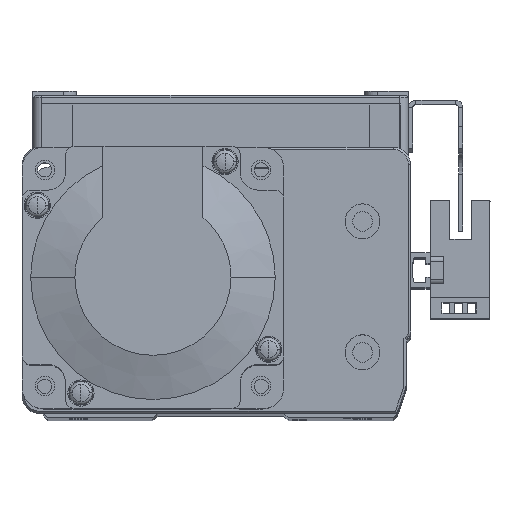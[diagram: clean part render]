
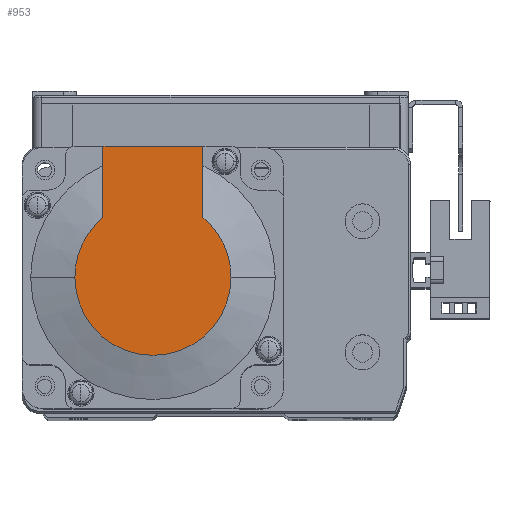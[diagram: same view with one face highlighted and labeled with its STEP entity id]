
A CAD part, top view. The second image highlights one B-rep face of the part: STEP entity #953.
In plain terms, the highlighted planar face has unit normal (0, 0, 1) as drawn and (-1, 0, 0) by its records, which use the part's own axes.
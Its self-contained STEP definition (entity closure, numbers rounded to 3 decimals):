
#953 = ADVANCED_FACE ( 'NONE', ( #32141 ), #21356, .T. ) ;
#8481 = EDGE_CURVE ( 'NONE', #26103, #26039, #11581, .T. ) ;
#8488 = EDGE_CURVE ( 'NONE', #26119, #26103, #11589, .T. ) ;
#10972 = CARTESIAN_POINT ( 'NONE',  ( -99., 0., 0. ) ) ;
#10999 = DIRECTION ( 'NONE',  ( -1., 0., 0. ) ) ;
#11000 = DIRECTION ( 'NONE',  ( 0., 0., -1. ) ) ;
#11006 = CARTESIAN_POINT ( 'NONE',  ( -99., 0., 0. ) ) ;
#11020 = DIRECTION ( 'NONE',  ( -1., 0., 0. ) ) ;
#11043 = DIRECTION ( 'NONE',  ( 0., 0., -1. ) ) ;
#11581 = CIRCLE ( 'NONE', #31408, 17.881 ) ;
#11589 = CIRCLE ( 'NONE', #31395, 17.881 ) ;
#12520 = LINE ( 'NONE', #14657, #12539 ) ;
#12522 = LINE ( 'NONE', #14718, #12523 ) ;
#12523 = VECTOR ( 'NONE', #14697, 1000. ) ;
#12539 = VECTOR ( 'NONE', #14729, 1000. ) ;
#12615 = LINE ( 'NONE', #14783, #12637 ) ;
#12637 = VECTOR ( 'NONE', #14787, 1000. ) ;
#14402 = CARTESIAN_POINT ( 'NONE',  ( -99., 13.735, 11.45 ) ) ;
#14453 = CARTESIAN_POINT ( 'NONE',  ( -99., 0., -17.881 ) ) ;
#14473 = CARTESIAN_POINT ( 'NONE',  ( -99., 0., 17.881 ) ) ;
#14657 = CARTESIAN_POINT ( 'NONE',  ( -99., 30., 25. ) ) ;
#14697 = DIRECTION ( 'NONE',  ( 0., -1., 0. ) ) ;
#14718 = CARTESIAN_POINT ( 'NONE',  ( -99., -8.941, -11.45 ) ) ;
#14729 = DIRECTION ( 'NONE',  ( 0., 0., 1. ) ) ;
#14783 = CARTESIAN_POINT ( 'NONE',  ( -99., 0., 11.45 ) ) ;
#14787 = DIRECTION ( 'NONE',  ( 0., -1., 0. ) ) ;
#14876 = CARTESIAN_POINT ( 'NONE',  ( -99., 13.735, -11.45 ) ) ;
#14976 = CARTESIAN_POINT ( 'NONE',  ( -99., 30., -11.45 ) ) ;
#15034 = CARTESIAN_POINT ( 'NONE',  ( -99., 30., 11.45 ) ) ;
#16576 = CIRCLE ( 'NONE', #31679, 17.881 ) ;
#17615 = CARTESIAN_POINT ( 'NONE',  ( -99., 0., 0. ) ) ;
#17616 = DIRECTION ( 'NONE',  ( -1., 0., 0. ) ) ;
#17617 = DIRECTION ( 'NONE',  ( 0., 0., -1. ) ) ;
#21356 = PLANE ( 'NONE',  #30676 ) ;
#21375 = CARTESIAN_POINT ( 'NONE',  ( -99., -8.941, 0. ) ) ;
#21383 = DIRECTION ( 'NONE',  ( 0., 0., 1. ) ) ;
#21389 = DIRECTION ( 'NONE',  ( -1., 0., 0. ) ) ;
#26039 = VERTEX_POINT ( 'NONE', #14402 ) ;
#26103 = VERTEX_POINT ( 'NONE', #14473 ) ;
#26119 = VERTEX_POINT ( 'NONE', #14453 ) ;
#27665 = EDGE_CURVE ( 'NONE', #28103, #28231, #12520, .T. ) ;
#27670 = EDGE_CURVE ( 'NONE', #28103, #27927, #12522, .T. ) ;
#27754 = EDGE_CURVE ( 'NONE', #28231, #26039, #12615, .T. ) ;
#27927 = VERTEX_POINT ( 'NONE', #14876 ) ;
#28103 = VERTEX_POINT ( 'NONE', #14976 ) ;
#28231 = VERTEX_POINT ( 'NONE', #15034 ) ;
#30676 = AXIS2_PLACEMENT_3D ( 'NONE', #21375, #21389, #21383 ) ;
#31395 = AXIS2_PLACEMENT_3D ( 'NONE', #11006, #11020, #11043 ) ;
#31408 = AXIS2_PLACEMENT_3D ( 'NONE', #10972, #10999, #11000 ) ;
#31679 = AXIS2_PLACEMENT_3D ( 'NONE', #17615, #17616, #17617 ) ;
#32141 = FACE_OUTER_BOUND ( 'NONE', #45900, .T. ) ;
#33704 = EDGE_CURVE ( 'NONE', #27927, #26119, #16576, .T. ) ;
#36330 = ORIENTED_EDGE ( 'NONE', *, *, #27670, .T. ) ;
#36332 = ORIENTED_EDGE ( 'NONE', *, *, #8488, .T. ) ;
#36333 = ORIENTED_EDGE ( 'NONE', *, *, #27665, .F. ) ;
#36337 = ORIENTED_EDGE ( 'NONE', *, *, #27754, .F. ) ;
#36343 = ORIENTED_EDGE ( 'NONE', *, *, #8481, .T. ) ;
#36344 = ORIENTED_EDGE ( 'NONE', *, *, #33704, .T. ) ;
#45900 = EDGE_LOOP ( 'NONE', ( #36330, #36344, #36332, #36343, #36337, #36333 ) ) ;
